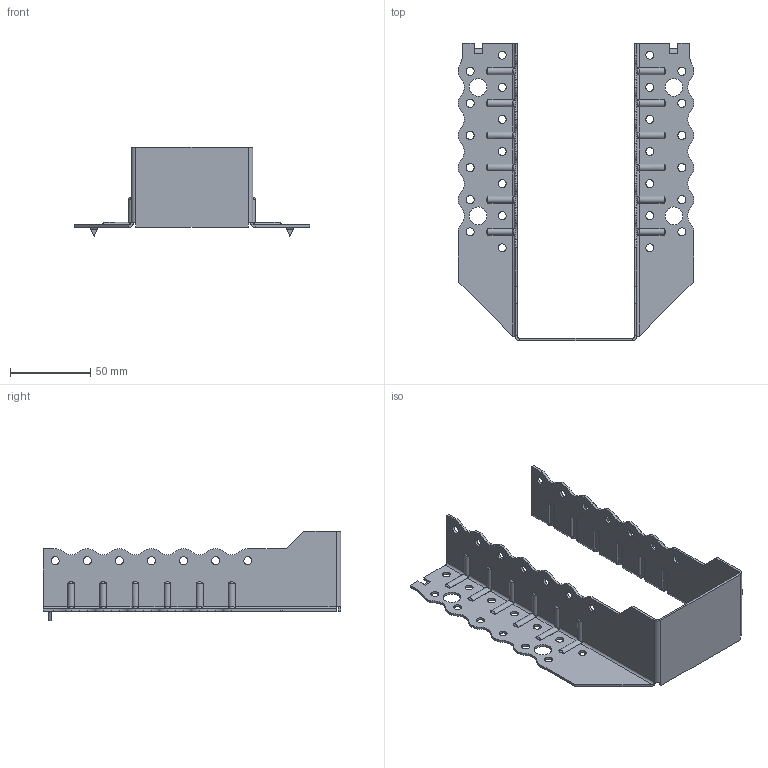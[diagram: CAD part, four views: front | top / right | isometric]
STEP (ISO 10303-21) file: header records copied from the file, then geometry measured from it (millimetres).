
FILE_DESCRIPTION (( 'STEP AP203' ), '1' );
FILE_NAME ('30625TOPK.STEP', '2021-04-08T14:56:40', ( '' ), ( '' ), 'SwSTEP 2.0', 'SolidWorks 2013', '' );
FILE_SCHEMA (( 'CONFIG_CONTROL_DESIGN' ));
Length unit declared in the file: millimetre
Products named in the file (1): 30625TOPK
Bounding box: 147 x 185.5 x 56 mm (x, y, z)
Volume: 42134.7 mm3; surface area: 60029.1 mm2
Topology: 1 solids, 1 shells, 496 faces, 1342 edges, 848 vertices
Faces by surface type: cylinder 315, plane 133, torus 24, bspline 24
Entity records: 18521 total; most frequent: CARTESIAN_POINT 5917, ORIENTED_EDGE 2684, DIRECTION 2582, EDGE_CURVE 1342, AXIS2_PLACEMENT_3D 943, VERTEX_POINT 848, VECTOR 696, LINE 696
